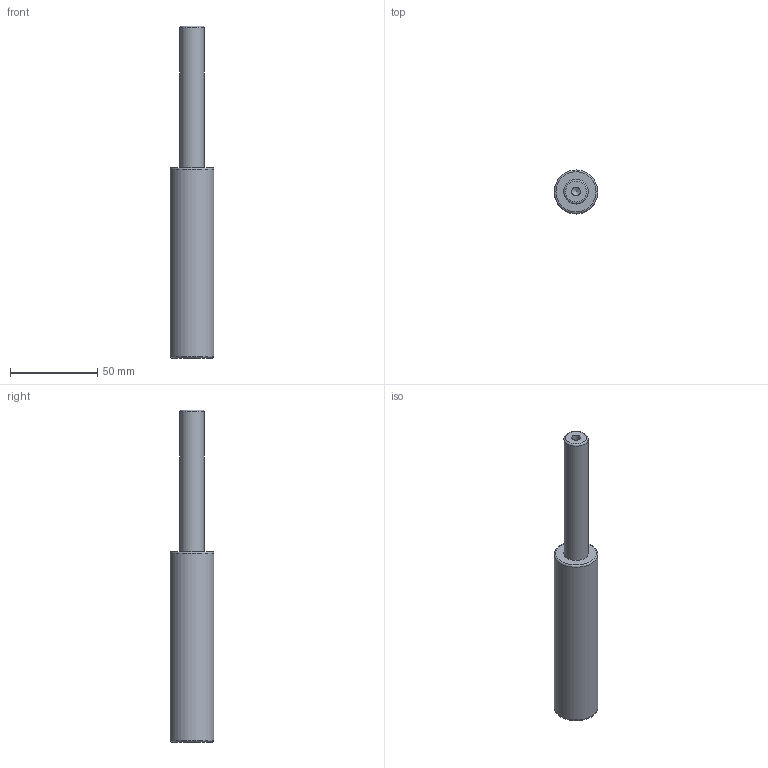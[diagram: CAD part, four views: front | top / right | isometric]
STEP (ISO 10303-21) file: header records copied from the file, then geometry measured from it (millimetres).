
FILE_DESCRIPTION(/* description */ (''),/* implementation_level */ '2;1');
FILE_NAME(/* name */ 'NV5-SMLX.25x80.stp',/* time_stamp */ '2018-08-31T16:08:37+02:00',/* author */ (''),/* organization */ (''),/* preprocessor_version */ 'ST-DEVELOPER v16',/* originating_system */ 'SIEMENS PLM Software NX 10.0',/* authorisation */ '');
FILE_SCHEMA (('AUTOMOTIVE_DESIGN { 1 0 10303 214 3 1 1 1 }'));
Length unit declared in the file: millimetre
Products named in the file (1): NV5-SMLX.25x80
Bounding box: 25 x 25 x 190 mm (x, y, z)
Volume: 65480.4 mm3; surface area: 13369.6 mm2
Topology: 1 solids, 1 shells, 12 faces, 24 edges, 15 vertices
Faces by surface type: cylinder 4, torus 3, plane 3, cone 2
Full cylindrical faces by diameter (mm): 5 x2, 14 x1, 25 x1
Entity records: 266 total; most frequent: DIRECTION 48, CARTESIAN_POINT 37, FACE_BOUND 24, AXIS2_PLACEMENT_3D 24, EDGE_LOOP 22, ORIENTED_EDGE 22, VERTEX_POINT 13, ADVANCED_FACE 12
